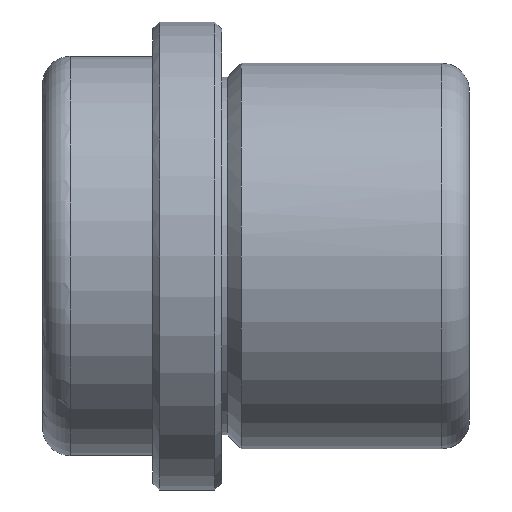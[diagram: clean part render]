
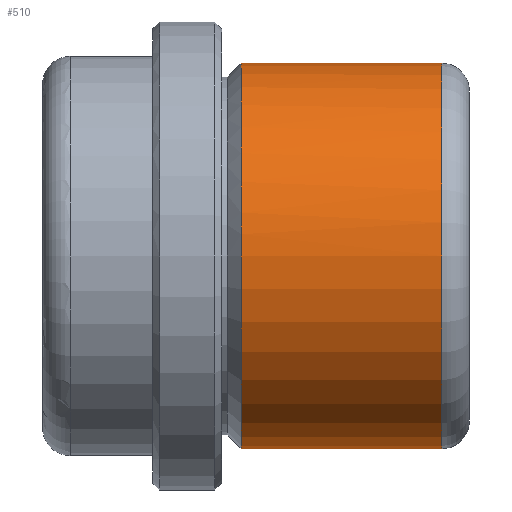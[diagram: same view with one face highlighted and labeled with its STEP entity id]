
A CAD part, front view. The second image highlights one B-rep face of the part: STEP entity #510.
In plain terms, the highlighted cylindrical face has radius 14 mm (diameter 28 mm), a partial arc.
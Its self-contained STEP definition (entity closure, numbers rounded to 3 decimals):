
#293=CARTESIAN_POINT('Line Origine',(18.,0.,14.)) ;
#297=CARTESIAN_POINT('Vertex',(16.,0.,14.)) ;
#299=CARTESIAN_POINT('Vertex',(1.414,0.,14.)) ;
#313=CARTESIAN_POINT('Vertex',(16.,0.,-14.)) ;
#316=CARTESIAN_POINT('Line Origine',(18.,0.,-14.)) ;
#320=CARTESIAN_POINT('Vertex',(1.414,0.,-14.)) ;
#470=CARTESIAN_POINT('Axis2P3D Location',(18.,0.,0.)) ;
#475=CARTESIAN_POINT('Axis2P3D Location',(16.,0.,0.)) ;
#479=CARTESIAN_POINT('Vertex',(16.,-14.,0.)) ;
#482=CARTESIAN_POINT('Axis2P3D Location',(16.,0.,0.)) ;
#488=CARTESIAN_POINT('Control Point',(1.414,0.,14.)) ;
#489=CARTESIAN_POINT('Control Point',(1.414,-4.398,14.)) ;
#490=CARTESIAN_POINT('Control Point',(1.414,-8.801,12.278)) ;
#491=CARTESIAN_POINT('Control Point',(1.414,-12.278,8.801)) ;
#492=CARTESIAN_POINT('Control Point',(1.414,-14.,4.398)) ;
#493=CARTESIAN_POINT('Control Point',(1.414,-14.,0.)) ;
#494=CARTESIAN_POINT('Vertex',(1.414,-14.,0.)) ;
#497=CARTESIAN_POINT('Axis2P3D Location',(1.414,0.,0.)) ;
#294=DIRECTION('Vector Direction',(-1.,0.,0.)) ;
#317=DIRECTION('Vector Direction',(-1.,0.,0.)) ;
#471=DIRECTION('Axis2P3D Direction',(-1.,-0.,-0.)) ;
#472=DIRECTION('Axis2P3D XDirection',(0.,0.,-1.)) ;
#476=DIRECTION('Axis2P3D Direction',(-1.,-0.,-0.)) ;
#483=DIRECTION('Axis2P3D Direction',(-1.,-0.,-0.)) ;
#498=DIRECTION('Axis2P3D Direction',(-1.,-0.,-0.)) ;
#473=AXIS2_PLACEMENT_3D('Cylinder Axis2P3D',#470,#471,#472) ;
#477=AXIS2_PLACEMENT_3D('Circle Axis2P3D',#475,#476,$) ;
#484=AXIS2_PLACEMENT_3D('Circle Axis2P3D',#482,#483,$) ;
#499=AXIS2_PLACEMENT_3D('Circle Axis2P3D',#497,#498,$) ;
#503=ORIENTED_EDGE('',*,*,#322,.T.) ;
#504=ORIENTED_EDGE('',*,*,#481,.F.) ;
#505=ORIENTED_EDGE('',*,*,#486,.F.) ;
#506=ORIENTED_EDGE('',*,*,#301,.T.) ;
#507=ORIENTED_EDGE('',*,*,#496,.T.) ;
#508=ORIENTED_EDGE('',*,*,#501,.T.) ;
#295=VECTOR('Line Direction',#294,1.) ;
#318=VECTOR('Line Direction',#317,1.) ;
#510=ADVANCED_FACE('CF 631 19 x 31',(#509),#474,.T.) ;
#487=B_SPLINE_CURVE_WITH_KNOTS('',5,(#488,#489,#490,#491,#492,#493),.UNSPECIFIED.,.F.,.U.,(6,6),(-10.996,10.996),.UNSPECIFIED.) ;
#478=CIRCLE('generated circle',#477,14.) ;
#485=CIRCLE('generated circle',#484,14.) ;
#500=CIRCLE('generated circle',#499,14.) ;
#474=CYLINDRICAL_SURFACE('generated cylinder',#473,14.) ;
#301=EDGE_CURVE('',#298,#300,#296,.T.) ;
#322=EDGE_CURVE('',#321,#314,#319,.F.) ;
#481=EDGE_CURVE('',#480,#314,#478,.F.) ;
#486=EDGE_CURVE('',#298,#480,#485,.F.) ;
#496=EDGE_CURVE('',#300,#495,#487,.T.) ;
#501=EDGE_CURVE('',#495,#321,#500,.F.) ;
#502=EDGE_LOOP('',(#503,#504,#505,#506,#507,#508)) ;
#509=FACE_OUTER_BOUND('',#502,.T.) ;
#296=LINE('Line',#293,#295) ;
#319=LINE('Line',#316,#318) ;
#298=VERTEX_POINT('',#297) ;
#300=VERTEX_POINT('',#299) ;
#314=VERTEX_POINT('',#313) ;
#321=VERTEX_POINT('',#320) ;
#480=VERTEX_POINT('',#479) ;
#495=VERTEX_POINT('',#494) ;
